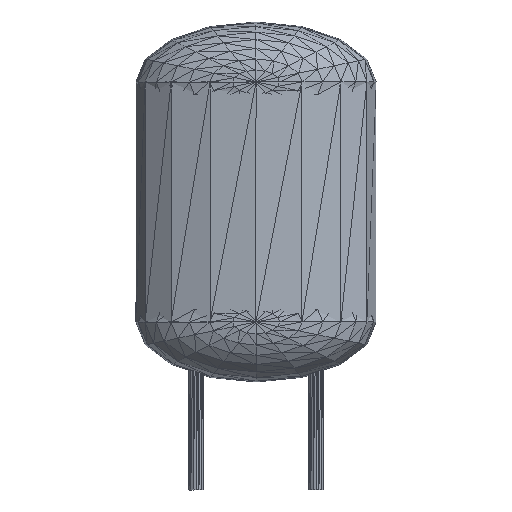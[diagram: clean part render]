
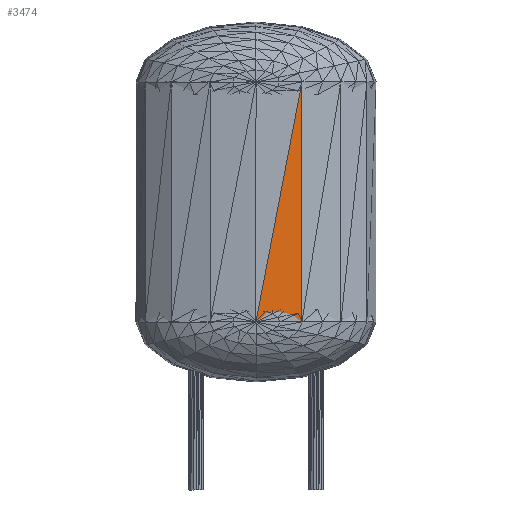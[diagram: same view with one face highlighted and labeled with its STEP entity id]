
A CAD part, front view. The second image highlights one B-rep face of the part: STEP entity #3474.
In plain terms, the highlighted planar face has unit normal (0.099, -0.995, 0).
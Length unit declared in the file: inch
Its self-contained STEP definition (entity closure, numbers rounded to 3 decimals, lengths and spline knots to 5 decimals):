
#2705=CARTESIAN_POINT('',(-0.00017,-0.10007,0.18004));
#2706=VERTEX_POINT('',#2705);
#2713=CARTESIAN_POINT('',(0.07637,-0.09248,0.18002));
#2714=VERTEX_POINT('',#2713);
#2721=CARTESIAN_POINT('',(0.07637,-0.09249,0.18002));
#2722=DIRECTION('',(-0.995,-0.099,0.));
#2723=VECTOR('',#2722,0.07691);
#2724=LINE('',#2721,#2723);
#2725=EDGE_CURVE('',#2714,#2706,#2724,.T.);
#3075=CARTESIAN_POINT('',(0.07643,-0.09234,0.58002));
#3076=VERTEX_POINT('',#3075);
#3443=CARTESIAN_POINT('',(-0.00017,-0.10007,0.18004));
#3444=DIRECTION('',(0.188,0.019,0.982));
#3445=VECTOR('',#3444,0.40733);
#3446=LINE('',#3443,#3445);
#3447=EDGE_CURVE('',#2706,#3076,#3446,.T.);
#3459=CARTESIAN_POINT('',(0.07643,-0.09235,0.58002));
#3460=DIRECTION('',(0.099,-0.995,0.));
#3461=DIRECTION('',(0.995,0.099,0.));
#3462=AXIS2_PLACEMENT_3D('',#3459,#3460,#3461);
#3463=PLANE('',#3462);
#3464=ORIENTED_EDGE('',*,*,#3447,.F.);
#3465=ORIENTED_EDGE('',*,*,#2725,.F.);
#3466=CARTESIAN_POINT('',(0.07637,-0.09249,0.18002));
#3467=DIRECTION('',(0.,0.,1.));
#3468=VECTOR('',#3467,0.4);
#3469=LINE('',#3466,#3468);
#3470=EDGE_CURVE('',#2714,#3076,#3469,.T.);
#3471=ORIENTED_EDGE('',*,*,#3470,.T.);
#3472=EDGE_LOOP('',(#3464,#3465,#3471));
#3473=FACE_BOUND('',#3472,.T.);
#3474=ADVANCED_FACE('',(#3473),#3463,.T.);
